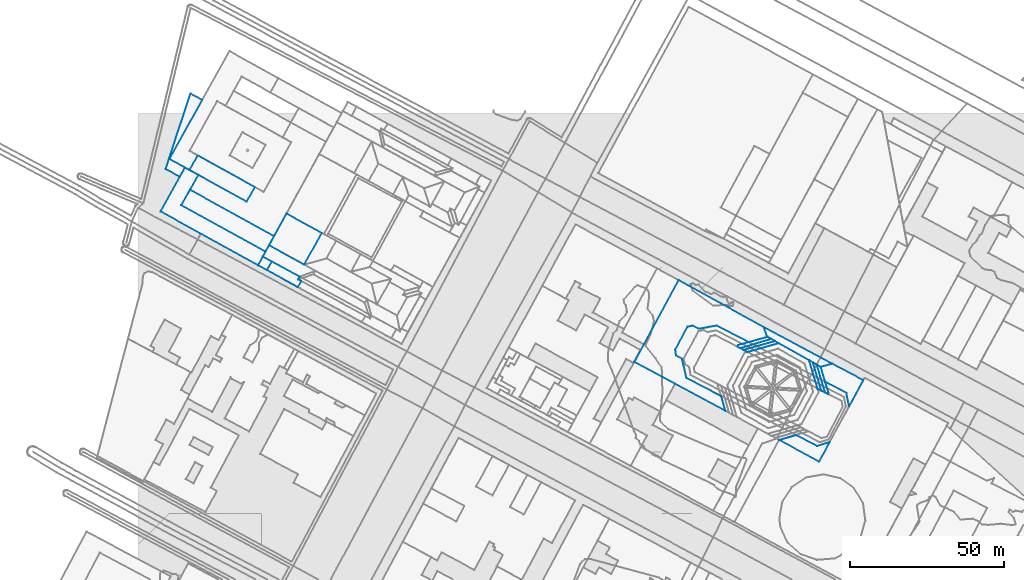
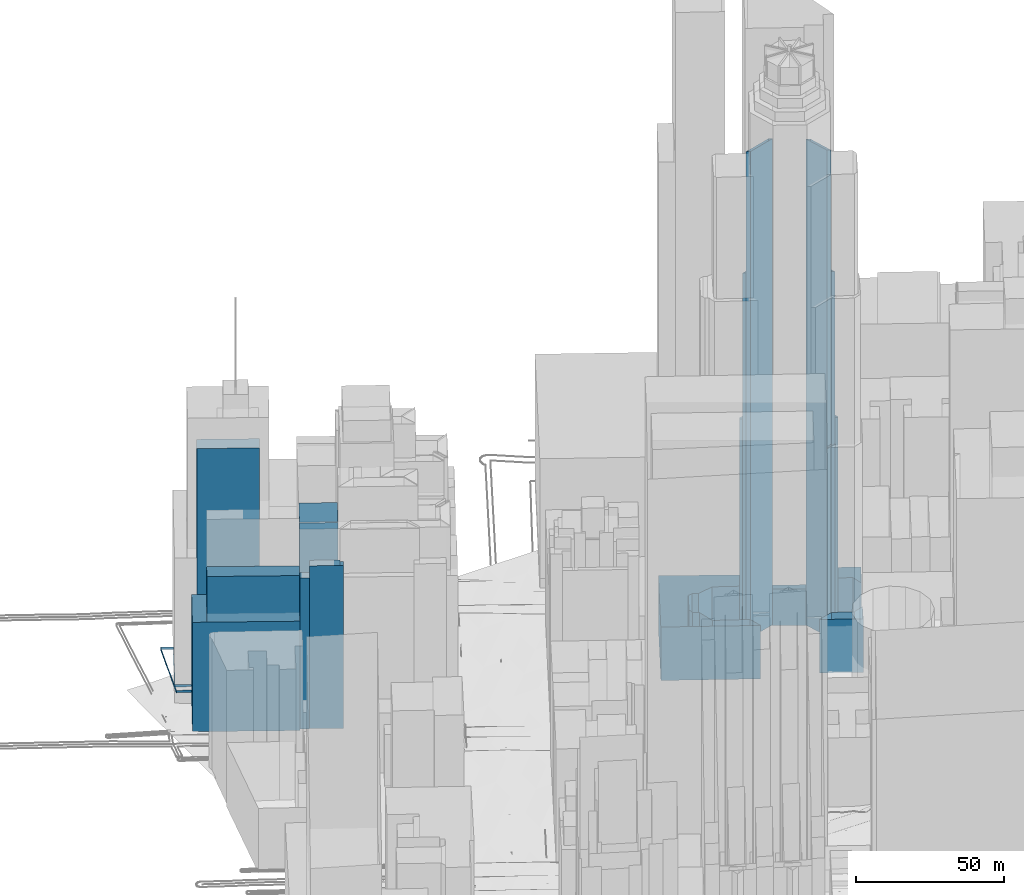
# Not in any storey, part 26 of 76: 17 walls.
"""IFC2X3 model written with IfcOpenShell, lengths in metres."""

from ifc_helpers import new_model, si_unit, frame, origin_with_axes, place, context, subcontext, project, faceted_brep, element, save


model = new_model("IFC2X3")

# Units and contexts
model_context = context("Model", 3, precision=1e-05, world=origin_with_axes())
body_context = subcontext(model_context, "Body", "Model", "MODEL_VIEW")
ifc_project = project(units=[si_unit("AREAUNIT", "SQUARE_METRE"), si_unit("LENGTHUNIT", "METRE")], contexts=[model_context])

# Walls
wall_1_placement = place(None, frame((161.19127827, 298.8014028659, 19.4608547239), z_axis=(0.0, 0.0, 1.0), x_axis=(1.0, 0.0, 0.0)))
element("IfcWall", 1, at=wall_1_placement, Name="Mur 0", context=body_context, shape_type="Brep", body=[
    faceted_brep([(29.637602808, -15.9646779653, 22.0), (0.0, 0.0, 22.0), (29.637602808, -15.9646779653, 0.0), (0.0, 0.0, 0.0), (28.2733478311, -11.1621604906, 22.0), (28.2733478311, -11.1621604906, 0.0), (16.9696826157, -5.2983587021, 22.0), (16.9696826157, -5.2983587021, 0.0), (15.5294506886, 0.9576732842, 22.0), (15.5294506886, 0.9576732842, 0.0), (13.5836021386, 2.0563807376, 22.0), (13.5836021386, 2.0563807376, 0.0), (13.3239184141, 4.0628703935, 22.0), (13.3239184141, 4.0628703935, 0.0), (17.2729201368, 11.4584719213, 22.0), (17.2729201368, 11.4584719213, 0.0), (18.9830601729, 11.7559095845, 22.0), (18.9830601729, 11.7559095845, 0.0), (20.8772332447, 10.7454208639, 22.0), (20.8772332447, 10.7454208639, 0.0), (26.7655958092, 11.7908792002, 22.0), (26.7655958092, 11.7908792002, 0.0), (37.1350091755, 6.4158307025, 22.0), (37.1350091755, 6.4158307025, 0.0), (43.2518253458, 8.1411963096, 22.0), (43.2518253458, 8.1411963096, 0.0), (42.0671637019, 11.2915635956, 22.0), (42.0671637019, 11.2915635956, 0.0), (14.3795340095, 26.5350073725, 22.0), (14.3795340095, 26.5350073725, 0.0)], [[[0, 1, 2]], [[2, 1, 3]], [[4, 0, 5]], [[5, 0, 2]], [[6, 4, 7]], [[7, 4, 5]], [[8, 6, 9]], [[9, 6, 7]], [[10, 8, 11]], [[11, 8, 9]], [[12, 10, 13]], [[13, 10, 11]], [[14, 12, 15]], [[15, 12, 13]], [[16, 14, 17]], [[17, 14, 15]], [[18, 16, 19]], [[19, 16, 17]], [[20, 18, 21]], [[21, 18, 19]], [[22, 20, 23]], [[23, 20, 21]], [[24, 22, 25]], [[25, 22, 23]], [[26, 24, 27]], [[27, 24, 25]], [[1, 28, 3]], [[3, 28, 29]], [[28, 26, 29]], [[29, 26, 27]]]),
])
wall_2_placement = place(None, frame((203.2584419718, 310.0929664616, 21.9404542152), z_axis=(0.0, 0.0, 1.0), x_axis=(1.0, 0.0, 0.0)))
element("IfcWall", 2, at=wall_2_placement, Name="Mur 0", context=body_context, shape_type="Brep", body=[
    faceted_brep([(1.1846616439, -3.1503672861, 15.0), (0.0, 0.0, 15.0), (1.1846616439, -3.1503672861, 0.0), (0.0, 0.0, 0.0), (18.5101123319, -12.9075972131, 15.0), (18.5101123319, -12.9075972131, 0.0), (22.221026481, -11.8985374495, 15.0), (22.221026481, -11.8985374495, 0.0)], [[[0, 1, 2]], [[2, 1, 3]], [[4, 0, 5]], [[5, 0, 2]], [[1, 6, 3]], [[3, 6, 7]], [[6, 4, 7]], [[7, 4, 5]]]),
])
wall_3_placement = place(None, frame((219.2364479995, 298.6103141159, 22.0370250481), z_axis=(0.0, 0.0, 1.0), x_axis=(1.0, 0.0, 0.0)))
element("IfcWall", 3, at=wall_3_placement, Name="Mur 0", context=body_context, shape_type="Brep", body=[
    faceted_brep([(2.8171290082, -9.2376195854, 150.0), (0.0, 0.0, 150.0), (2.8171290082, -9.2376195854, 0.0), (0.0, 0.0, 0.0), (4.0061240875, -9.8566187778, 150.0), (4.0061240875, -9.8566187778, 0.0), (1.2661175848, -0.7180229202, 150.0), (1.2661175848, -0.7180229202, 0.0)], [[[0, 1, 2]], [[2, 1, 3]], [[4, 0, 5]], [[5, 0, 2]], [[1, 6, 3]], [[3, 6, 7]], [[6, 4, 7]], [[7, 4, 5]]]),
])
wall_4_placement = place(None, frame((220.5025655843, 297.8922911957, 22.020281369), z_axis=(0.0, 0.0, 1.0), x_axis=(1.0, 0.0, 0.0)))
element("IfcWall", 4, at=wall_4_placement, Name="Mur 0", context=body_context, shape_type="Brep", body=[
    faceted_brep([(2.7400065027, -9.1385958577, 90.0), (0.0, 0.0, 90.0), (2.7400065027, -9.1385958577, 0.0), (0.0, 0.0, 0.0), (3.6317852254, -9.6056203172, 90.0), (3.6317852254, -9.6056203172, 0.0), (3.8550238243, -9.20334242, 90.0), (3.8550238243, -9.20334242, 0.0), (1.2659887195, -0.7069219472, 90.0), (1.2659887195, -0.7069219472, 0.0)], [[[0, 1, 2]], [[2, 1, 3]], [[4, 0, 5]], [[5, 0, 2]], [[6, 4, 7]], [[7, 4, 5]], [[1, 8, 3]], [[3, 8, 9]], [[8, 6, 9]], [[9, 6, 7]]]),
])
wall_5_placement = place(None, frame((221.7685543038, 297.1853692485, 21.8040198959), z_axis=(0.0, 0.0, 1.0), x_axis=(1.0, 0.0, 0.0)))
element("IfcWall", 5, at=wall_5_placement, Name="Mur 0", context=body_context, shape_type="Brep", body=[
    faceted_brep([(1.4921694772, -4.9120468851, 22.0), (0.0, 0.0, 22.0), (1.4921694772, -4.9120468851, 0.0), (0.0, 0.0, 0.0), (8.354244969, -8.4737691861, 22.0), (8.354244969, -8.4737691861, 0.0), (9.2151276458, -12.8158404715, 22.0), (9.2151276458, -12.8158404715, 0.0), (13.843917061, -4.3575852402, 22.0), (13.843917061, -4.3575852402, 0.0), (3.7109141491, 1.0090597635, 22.0), (3.7109141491, 1.0090597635, 0.0)], [[[0, 1, 2]], [[2, 1, 3]], [[4, 0, 5]], [[5, 0, 2]], [[6, 4, 7]], [[7, 4, 5]], [[8, 6, 9]], [[9, 6, 7]], [[1, 10, 3]], [[3, 10, 11]], [[10, 8, 11]], [[11, 8, 9]]]),
])
wall_6_placement = place(None, frame((208.2008787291, 273.4352760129, 21.5056877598), z_axis=(0.0, 0.0, 1.0), x_axis=(1.0, 0.0, 0.0)))
element("IfcWall", 6, at=wall_6_placement, Name="Mur 0", context=body_context, shape_type="Brep", body=[
    faceted_brep([(13.0821989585, -7.0865241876, 22.0), (0.0, 0.0, 22.0), (13.0821989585, -7.0865241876, 0.0), (0.0, 0.0, 0.0), (16.451848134, -0.6857371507, 22.0), (16.451848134, -0.6857371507, 0.0), (12.4573086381, -1.9867536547, 22.0), (12.4573086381, -1.9867536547, 0.0), (5.6462511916, 1.5422641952, 22.0), (5.6462511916, 1.5422641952, 0.0)], [[[0, 1, 2]], [[2, 1, 3]], [[4, 0, 5]], [[5, 0, 2]], [[6, 4, 7]], [[7, 4, 5]], [[1, 8, 3]], [[3, 8, 9]], [[8, 6, 9]], [[9, 6, 7]]]),
])
wall_7_placement = place(None, frame((217.9703306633, 299.3283372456, 22.0589444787), z_axis=(0.0, 0.0, 1.0), x_axis=(1.0, 0.0, 0.0)))
element("IfcWall", 7, at=wall_7_placement, Name="Mur 0", context=body_context, shape_type="Brep", body=[
    faceted_brep([(2.8432226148, -9.3039300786, 200.0), (0.0, 0.0, 200.0), (2.8432226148, -9.3039300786, 0.0), (0.0, 0.0, 0.0), (4.0832463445, -9.9556427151, 200.0), (4.0832463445, -9.9556427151, 0.0), (1.2661173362, -0.7180231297, 200.0), (1.2661173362, -0.7180231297, 0.0)], [[[0, 1, 2]], [[2, 1, 3]], [[4, 0, 5]], [[5, 0, 2]], [[1, 6, 3]], [[3, 6, 7]], [[6, 4, 7]], [[7, 4, 5]]]),
])
wall_8_placement = place(None, frame((41.7800097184, 328.5784664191, 23.4010795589), z_axis=(0.0, 0.0, 1.0), x_axis=(1.0, 0.0, 0.0)))
element("IfcWall", 8, at=wall_8_placement, Name="Mur 0", context=body_context, shape_type="Brep", body=[
    faceted_brep([(10.0500953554, -5.5121834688, 67.0), (0.0, 0.0, 67.0), (10.0500953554, -5.5121834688, 0.0), (0.0, 0.0, 0.0), (11.1329543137, -3.534514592, 67.0), (11.1329543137, -3.534514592, 0.0), (10.1390067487, -2.9909401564, 67.0), (10.1390067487, -2.9909401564, 0.0), (10.6265412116, -2.085998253, 67.0), (10.6265412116, -2.085998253, 0.0), (1.5539020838, 2.8491104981, 67.0), (1.5539020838, 2.8491104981, 0.0)], [[[0, 1, 2]], [[2, 1, 3]], [[4, 0, 5]], [[5, 0, 2]], [[6, 4, 7]], [[7, 4, 5]], [[8, 6, 9]], [[9, 6, 7]], [[1, 10, 3]], [[3, 10, 11]], [[10, 8, 11]], [[11, 8, 9]]]),
])
wall_9_placement = place(None, frame((194.6888328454, 303.6983377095, 22.4164949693), z_axis=(0.0, 0.0, 1.0), x_axis=(1.0, 0.0, 0.0)))
element("IfcWall", 9, at=wall_9_placement, Name="Mur 0", context=body_context, shape_type="Brep", body=[
    faceted_brep([(0.8833348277, -0.4671259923, 90.0), (0.0, 0.0, 90.0), (0.8833348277, -0.4671259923, 0.0), (0.0, 0.0, 0.0), (10.9779261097, 2.547946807, 90.0), (10.9779261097, 2.547946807, 0.0), (9.7542707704, 3.244261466, 90.0), (9.7542707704, 3.244261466, 0.0), (0.3055768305, 0.5808705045, 90.0), (0.3055768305, 0.5808705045, 0.0)], [[[0, 1, 2]], [[2, 1, 3]], [[4, 0, 5]], [[5, 0, 2]], [[6, 4, 7]], [[7, 4, 5]], [[1, 8, 3]], [[3, 8, 9]], [[8, 6, 9]], [[9, 6, 7]]]),
])
wall_10_placement = place(None, frame((195.5721676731, 303.2312117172, 22.3534216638), z_axis=(0.0, 0.0, 1.0), x_axis=(1.0, 0.0, 0.0)))
element("IfcWall", 10, at=wall_10_placement, Name="Mur 0", context=body_context, shape_type="Brep", body=[
    faceted_brep([(1.0701818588, -0.5648735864, 150.0), (0.0, 0.0, 150.0), (1.0701818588, -0.5648735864, 0.0), (0.0, 0.0, 0.0), (11.3265579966, 2.3299572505, 150.0), (11.3265579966, 2.3299572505, 0.0), (10.094591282, 3.0150727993, 150.0), (10.094591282, 3.0150727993, 0.0)], [[[0, 1, 2]], [[2, 1, 3]], [[4, 0, 5]], [[5, 0, 2]], [[1, 6, 3]], [[3, 6, 7]], [[6, 4, 7]], [[7, 4, 5]]]),
])
wall_11_placement = place(None, frame((196.642349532, 302.6663381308, 22.285008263), z_axis=(0.0, 0.0, 1.0), x_axis=(1.0, 0.0, 0.0)))
element("IfcWall", 11, at=wall_11_placement, Name="Mur 0", context=body_context, shape_type="Brep", body=[
    faceted_brep([(1.290919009, -0.6733292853, 200.0), (0.0, 0.0, 200.0), (1.290919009, -0.6733292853, 0.0), (0.0, 0.0, 0.0), (11.4462710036, 2.1981239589, 200.0), (11.4462710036, 2.1981239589, 0.0), (10.2563761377, 2.8948308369, 200.0), (10.2563761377, 2.8948308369, 0.0)], [[[0, 1, 2]], [[2, 1, 3]], [[4, 0, 5]], [[5, 0, 2]], [[1, 6, 3]], [[3, 6, 7]], [[6, 4, 7]], [[7, 4, 5]]]),
])
wall_12_placement = place(None, frame((42.4543960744, 336.6576310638, 22.8602980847), z_axis=(0.0, 0.0, 1.0), x_axis=(1.0, 0.0, 0.0)))
element("IfcWall", 12, at=wall_12_placement, Name="Mur 0", context=body_context, shape_type="Brep", body=[
    faceted_brep([(11.4264184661, -6.2733628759, 80.0), (0.0, 0.0, 80.0), (11.4264184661, -6.2733628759, 0.0), (0.0, 0.0, 0.0), (17.1228970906, 4.0290444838, 80.0), (17.1228970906, 4.0290444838, 0.0), (5.6710397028, 10.3132053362, 80.0), (5.6710397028, 10.3132053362, 0.0)], [[[0, 1, 2]], [[2, 1, 3]], [[4, 0, 5]], [[5, 0, 2]], [[1, 6, 3]], [[3, 6, 7]], [[6, 4, 7]], [[7, 4, 5]]]),
])
wall_13_placement = place(None, frame((7.1766328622, 347.6946620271, 22.6847044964), z_axis=(0.0, 0.0, 1.0), x_axis=(1.0, 0.0, 0.0)))
element("IfcWall", 13, at=wall_13_placement, Name="Mur 0", context=body_context, shape_type="Brep", body=[
    faceted_brep([(31.7064559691, -17.5288908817, 45.0), (0.0, 0.0, 45.0), (31.7064559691, -17.5288908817, 0.0), (0.0, 0.0, 0.0), (34.1368527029, -13.1041901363, 45.0), (34.1368527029, -13.1041901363, 0.0), (6.7972554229, 2.0106592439, 45.0), (6.7972554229, 2.0106592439, 0.0), (12.2796097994, 11.8553581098, 45.0), (12.2796097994, 11.8553581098, 0.0), (7.9382167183, 14.2585789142, 45.0), (7.9382167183, 14.2585789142, 0.0)], [[[0, 1, 2]], [[2, 1, 3]], [[4, 0, 5]], [[5, 0, 2]], [[6, 4, 7]], [[7, 4, 5]], [[8, 6, 9]], [[9, 6, 7]], [[1, 10, 3]], [[3, 10, 11]], [[10, 8, 11]], [[11, 8, 9]]]),
])
wall_14_placement = place(None, frame((16.6101084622, 361.1268202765, 22.7114009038), z_axis=(0.0, 0.0, 1.0), x_axis=(1.0, 0.0, 0.0)))
element("IfcWall", 14, at=wall_14_placement, Name="Mur 0", context=body_context, shape_type="Brep", body=[
    faceted_brep([(18.5802692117, -10.2649021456, 105.0), (0.0, 0.0, 105.0), (18.5802692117, -10.2649021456, 0.0), (0.0, 0.0, 0.0), (21.23480915, -5.5156355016, 105.0), (21.23480915, -5.5156355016, 0.0), (2.6544189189, 4.7603606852, 105.0), (2.6544189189, 4.7603606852, 0.0)], [[[0, 1, 2]], [[2, 1, 3]], [[4, 0, 5]], [[5, 0, 2]], [[1, 6, 3]], [[3, 6, 7]], [[6, 4, 7]], [[7, 4, 5]]]),
])
wall_15_placement = place(None, frame((13.9738882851, 349.705321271, 22.9265770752), z_axis=(0.0, 0.0, 1.0), x_axis=(1.0, 0.0, 0.0)))
element("IfcWall", 15, at=wall_15_placement, Name="Mur 0", context=body_context, shape_type="Brep", body=[
    faceted_brep([(27.33959728, -15.1148493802, 60.0), (0.0, 0.0, 60.0), (27.33959728, -15.1148493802, 0.0), (0.0, 0.0, 0.0), (30.1006408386, -10.0867881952, 60.0), (30.1006408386, -10.0867881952, 0.0), (2.7949453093, 5.0173419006, 60.0), (2.7949453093, 5.0173419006, 0.0)], [[[0, 1, 2]], [[2, 1, 3]], [[4, 0, 5]], [[5, 0, 2]], [[1, 6, 3]], [[3, 6, 7]], [[6, 4, 7]], [[7, 4, 5]]]),
])
wall_16_placement = place(None, frame((8.8487001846, 361.4586486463, 29.7839697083), z_axis=(0.0, 0.0, 1.0), x_axis=(1.0, 0.0, 0.0)))
element("IfcWall", 16, at=wall_16_placement, Name="Mur 0", context=body_context, shape_type="Brep", body=[
    faceted_brep([(4.5875730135, -2.5224926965, 1.0), (0.0, 0.0, 1.0), (4.5875730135, -2.5224926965, 0.0), (0.0, 0.0, 0.0), (6.2661493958, 0.494592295, 1.0), (6.2661493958, 0.494592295, 0.0), (1.2195887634, 3.2893146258, 1.0), (1.2195887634, 3.2893146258, 0.0), (11.8949184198, 22.4535480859, 1.0), (11.8949184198, 22.4535480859, 0.0), (8.0632962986, 24.5740246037, 1.0), (8.0632962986, 24.5740246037, 0.0)], [[[0, 1, 2]], [[2, 1, 3]], [[4, 0, 5]], [[5, 0, 2]], [[6, 4, 7]], [[7, 4, 5]], [[8, 6, 9]], [[9, 6, 7]], [[1, 10, 3]], [[3, 10, 11]], [[10, 8, 11]], [[11, 8, 9]]]),
])
wall_17_placement = place(None, frame((38.8830888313, 330.1657711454, 23.374337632), z_axis=(0.0, 0.0, 1.0), x_axis=(1.0, 0.0, 0.0)))
element("IfcWall", 17, at=wall_17_placement, Name="Mur 0", context=body_context, shape_type="Brep", body=[
    faceted_brep([(2.8969208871, -1.5873047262, 62.0), (0.0, 0.0, 62.0), (2.8969208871, -1.5873047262, 0.0), (0.0, 0.0, 0.0), (4.4508229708, 1.2618057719, 62.0), (4.4508229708, 1.2618057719, 0.0), (1.5541605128, 2.8269083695, 62.0), (1.5541605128, 2.8269083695, 0.0)], [[[0, 1, 2]], [[2, 1, 3]], [[4, 0, 5]], [[5, 0, 2]], [[1, 6, 3]], [[3, 6, 7]], [[6, 4, 7]], [[7, 4, 5]]]),
])

save(model, "model.ifc")
